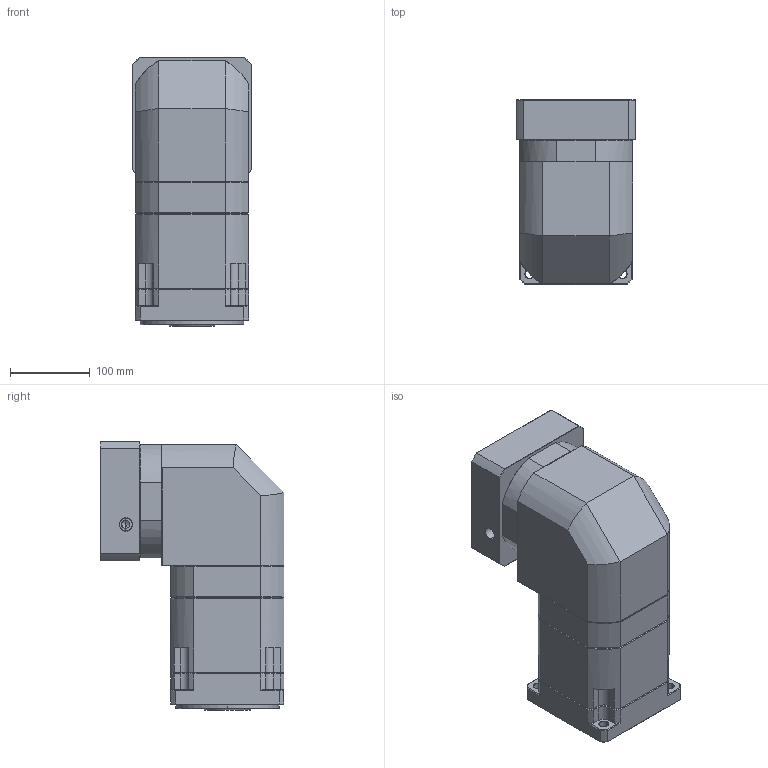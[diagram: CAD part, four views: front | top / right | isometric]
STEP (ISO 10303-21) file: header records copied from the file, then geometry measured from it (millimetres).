
FILE_DESCRIPTION (( 'STEP AP214' ), '1' );
FILE_NAME ('ZBR142A-K35-L3-P2-28-130-165-M10.step', '2023-09-02T07:17:28', ( '' ), ( '' ), 'SwSTEP 2.0', 'SolidWorks 2016', '' );
FILE_SCHEMA (( 'AUTOMOTIVE_DESIGN' ));
Length unit declared in the file: millimetre
Products named in the file (1): ZBR142A-K35-L3-P2-28-130-165-M10
Bounding box: 150 x 231 x 337.7 mm (x, y, z)
Volume: 6855109.2 mm3; surface area: 434855.6 mm2
Topology: 6 solids, 6 shells, 2278 faces, 6004 edges, 3832 vertices
Faces by surface type: plane 1125, bspline 408, cylinder 391, cone 334, torus 20
Entity records: 125068 total; most frequent: CARTESIAN_POINT 46953, ORIENTED_EDGE 11952, DIRECTION 9468, EDGE_CURVE 5976, VECTOR 3864, LINE 3864, VERTEX_POINT 3832, AXIS2_PLACEMENT_3D 2802
